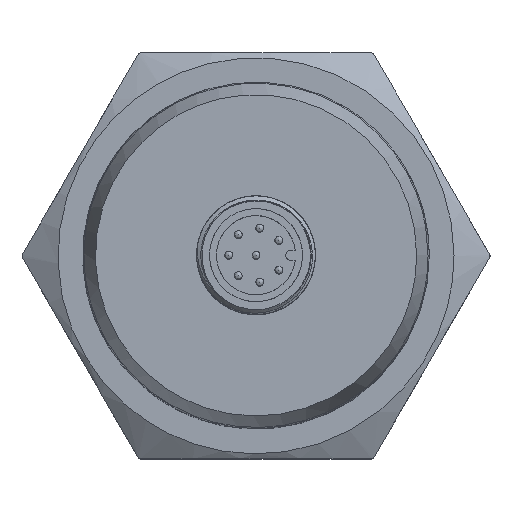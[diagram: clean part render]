
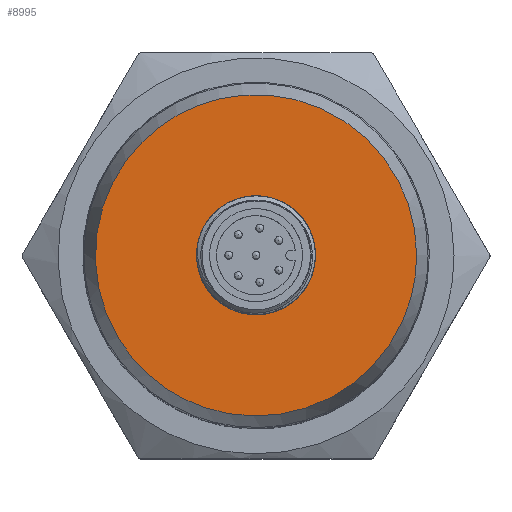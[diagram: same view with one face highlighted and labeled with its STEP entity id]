
A CAD part, top view. The second image highlights one B-rep face of the part: STEP entity #8995.
In plain terms, the highlighted free-form (B-spline) face has degree [1, 1] with [2, 2] control points.
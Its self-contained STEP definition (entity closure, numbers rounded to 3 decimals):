
#8938=CARTESIAN_POINT('V80',(16.226,0.,48.0)
   );
#8939=VERTEX_POINT('V80',#8938);
#8945=CARTESIAN_POINT('E119',(16.226,0.,48.0)
   );
#8946=CARTESIAN_POINT('E119',(16.226,28.104,
   48.0));
#8947=CARTESIAN_POINT('E119',(-8.113,14.052,
   48.0));
#8948=CARTESIAN_POINT('E119',(-32.452,0.,48.0)
   );
#8949=CARTESIAN_POINT('E119',(-8.113,-14.052,
   48.0));
#8950=CARTESIAN_POINT('E119',(16.226,-28.104,
   48.0));
#8951=CARTESIAN_POINT('E119',(16.226,0.,48.0)
   );
#8959=(BOUNDED_CURVE()B_SPLINE_CURVE(2,(#8945,#8946,#8947,#8948,
   #8949,#8950,#8951),.CIRCULAR_ARC.,.T.,.U.)
   B_SPLINE_CURVE_WITH_KNOTS((3,2,2,3),(2.0,11.124,
   20.248,29.372),.UNSPECIFIED.)CURVE()
   GEOMETRIC_REPRESENTATION_ITEM()RATIONAL_B_SPLINE_CURVE((1.0,
   0.5,1.0,0.5,1.0,0.5,1.0)
   )REPRESENTATION_ITEM('E119'));
#8960=EDGE_CURVE('E119',#8939,#8939,#8959,.T.);
#8966=CARTESIAN_POINT('F49',(-19.25,-19.053,
   48.0));
#8967=CARTESIAN_POINT('F49',(19.25,-19.053,
   48.0));
#8968=CARTESIAN_POINT('F49',(-19.25,19.053,
   48.0));
#8969=CARTESIAN_POINT('F49',(19.25,19.053,
   48.0));
#8970=QUASI_UNIFORM_SURFACE('F49',1,1,((#8966,#8968),(#8967,#8969))
,.PLANE_SURF.,.F.,.F.,.U.);
#8971=ORIENTED_EDGE('E119',*,*,#8960,.T.);
#8972=EDGE_LOOP('F49',(#8971));
#8973=FACE_OUTER_BOUND('F49',#8972,.T.);
#8974=CARTESIAN_POINT('V81',(6.,0.,48.0)
   );
#8975=VERTEX_POINT('V81',#8974);
#8976=CARTESIAN_POINT('E120',(6.,0.,48.0)
   );
#8977=CARTESIAN_POINT('E120',(6.,-10.392,
   48.0));
#8978=CARTESIAN_POINT('E120',(-3.,-5.196,
   48.0));
#8979=CARTESIAN_POINT('E120',(-12.,0.,48.0)
   );
#8980=CARTESIAN_POINT('E120',(-3.,5.196,
   48.0));
#8981=CARTESIAN_POINT('E120',(6.,10.392,
   48.0));
#8982=CARTESIAN_POINT('E120',(6.,0.,48.0)
   );
#8990=(BOUNDED_CURVE()B_SPLINE_CURVE(2,(#8976,#8977,#8978,#8979,
   #8980,#8981,#8982),.CIRCULAR_ARC.,.T.,.U.)
   B_SPLINE_CURVE_WITH_KNOTS((3,2,2,3),(0.0,2.078,
   4.157,6.235),.UNSPECIFIED.)CURVE()
   GEOMETRIC_REPRESENTATION_ITEM()RATIONAL_B_SPLINE_CURVE((1.0,
   0.5,1.0,0.5,1.0,0.5,1.0)
   )REPRESENTATION_ITEM('E120'));
#8991=EDGE_CURVE('E120',#8975,#8975,#8990,.T.);
#8992=ORIENTED_EDGE('E120',*,*,#8991,.T.);
#8993=EDGE_LOOP('F49',(#8992));
#8994=FACE_BOUND('F49',#8993,.T.);
#8995=ADVANCED_FACE('F49',(#8973,#8994),#8970,.T.);
